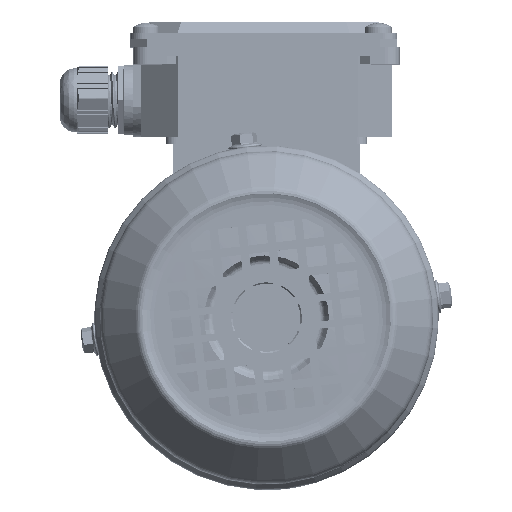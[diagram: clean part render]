
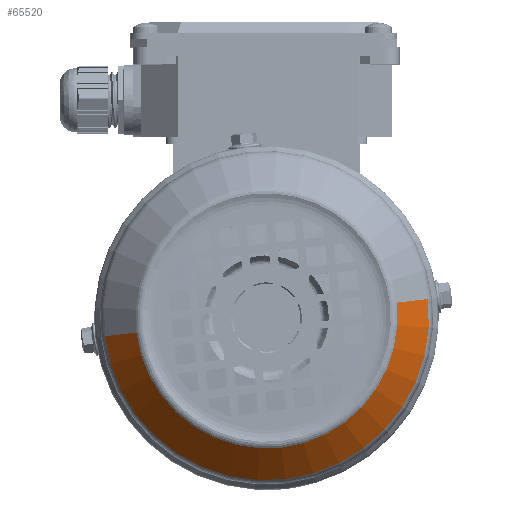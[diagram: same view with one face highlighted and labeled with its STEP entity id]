
A CAD part, top view. The second image highlights one B-rep face of the part: STEP entity #65520.
In plain terms, the highlighted conical face has half-angle 40.914 degrees and reference radius 46.203 mm.
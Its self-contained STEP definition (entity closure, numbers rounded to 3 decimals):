
#15789 = EDGE_CURVE ( 'NONE', #87144, #85606, #55361, .T. ) ;
#17750 = EDGE_CURVE ( 'NONE', #93556, #100928, #123982, .T. ) ;
#17823 = VECTOR ( 'NONE', #75149, 1000. ) ;
#20828 = DIRECTION ( 'NONE',  ( 0., -1., 0. ) ) ;
#22045 = CARTESIAN_POINT ( 'NONE',  ( -46.203, 16.797, 0. ) ) ;
#22313 = CARTESIAN_POINT ( 'NONE',  ( 0., 29.697, 0. ) ) ;
#25696 = DIRECTION ( 'NONE',  ( -1., 0., 0. ) ) ;
#32636 = DIRECTION ( 'NONE',  ( 1., 0., 0. ) ) ;
#35114 = CARTESIAN_POINT ( 'NONE',  ( 46.203, 16.797, 0. ) ) ;
#38380 = CARTESIAN_POINT ( 'NONE',  ( -57.383, 29.697, 0. ) ) ;
#38755 = EDGE_LOOP ( 'NONE', ( #125972, #129979, #127575, #80394 ) ) ;
#40849 = AXIS2_PLACEMENT_3D ( 'NONE', #87226, #97470, #25696 ) ;
#43937 = DIRECTION ( 'NONE',  ( 0.655, 0.756, 0. ) ) ;
#45157 = LINE ( 'NONE', #64836, #17823 ) ;
#52133 = CARTESIAN_POINT ( 'NONE',  ( 57.383, 29.697, 0. ) ) ;
#55361 = CIRCLE ( 'NONE', #72587, 57.383 ) ;
#64836 = CARTESIAN_POINT ( 'NONE',  ( -46.203, 16.797, 0. ) ) ;
#65520 = ADVANCED_FACE ( 'NONE', ( #105311 ), #129473, .T. ) ;
#71553 = LINE ( 'NONE', #115705, #129421 ) ;
#72587 = AXIS2_PLACEMENT_3D ( 'NONE', #22313, #94064, #32636 ) ;
#75149 = DIRECTION ( 'NONE',  ( -0.655, 0.756, 0. ) ) ;
#80394 = ORIENTED_EDGE ( 'NONE', *, *, #15789, .T. ) ;
#82332 = CARTESIAN_POINT ( 'NONE',  ( 0., 16.797, 0. ) ) ;
#85606 = VERTEX_POINT ( 'NONE', #52133 ) ;
#87144 = VERTEX_POINT ( 'NONE', #38380 ) ;
#87226 = CARTESIAN_POINT ( 'NONE',  ( 0., 16.797, 0. ) ) ;
#92613 = DIRECTION ( 'NONE',  ( 1., 0., 0. ) ) ;
#93556 = VERTEX_POINT ( 'NONE', #22045 ) ;
#94064 = DIRECTION ( 'NONE',  ( 0., -1., 0. ) ) ;
#94626 = EDGE_CURVE ( 'NONE', #93556, #87144, #45157, .T. ) ;
#97470 = DIRECTION ( 'NONE',  ( 0., 1., 0. ) ) ;
#98515 = AXIS2_PLACEMENT_3D ( 'NONE', #82332, #20828, #92613 ) ;
#100928 = VERTEX_POINT ( 'NONE', #35114 ) ;
#105311 = FACE_OUTER_BOUND ( 'NONE', #38755, .T. ) ;
#115705 = CARTESIAN_POINT ( 'NONE',  ( 46.203, 16.797, 0. ) ) ;
#123982 = CIRCLE ( 'NONE', #98515, 46.203 ) ;
#124201 = EDGE_CURVE ( 'NONE', #100928, #85606, #71553, .T. ) ;
#125972 = ORIENTED_EDGE ( 'NONE', *, *, #124201, .F. ) ;
#127575 = ORIENTED_EDGE ( 'NONE', *, *, #94626, .T. ) ;
#129421 = VECTOR ( 'NONE', #43937, 1000. ) ;
#129473 = CONICAL_SURFACE ( 'NONE', #40849, 46.203, 0.714 ) ;
#129979 = ORIENTED_EDGE ( 'NONE', *, *, #17750, .F. ) ;
